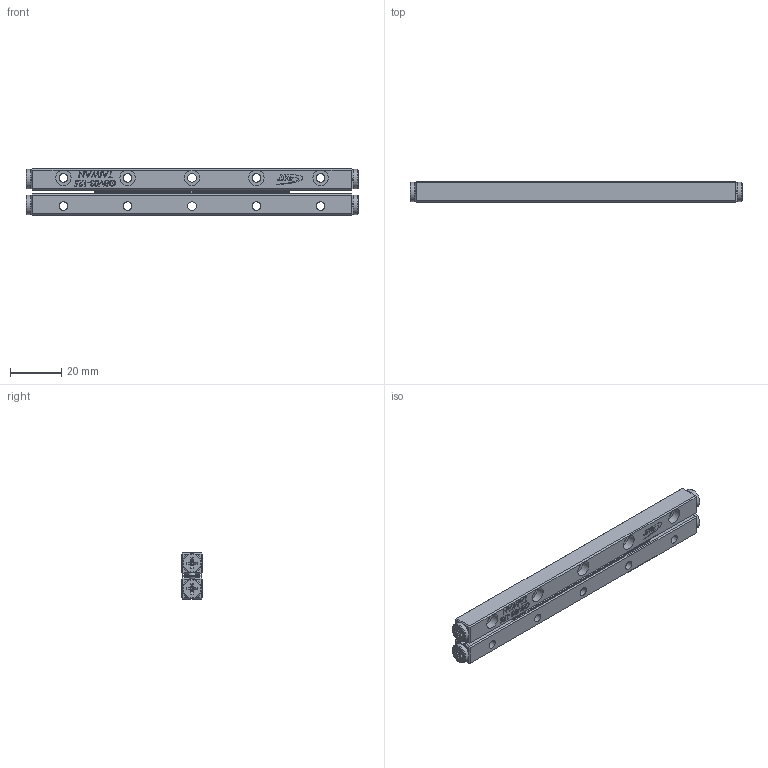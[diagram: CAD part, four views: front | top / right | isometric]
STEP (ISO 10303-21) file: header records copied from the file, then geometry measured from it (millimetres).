
FILE_DESCRIPTION (( 'STEP AP203' ), '1' );
FILE_NAME ('GBV03-125.STEP', '2023-11-08T08:46:25', ( '' ), ( '' ), 'SwSTEP 2.0', 'SolidWorks 2019', '' );
FILE_SCHEMA (( 'CONFIG_CONTROL_DESIGN' ));
Length unit declared in the file: millimetre
Products named in the file (3): GBV03-125-模糊化軌道; GBV03-125-模糊化保持器組; GBV03-125
Assembly tree (3 placements, depth 2):
  GBV03-125
    GBV03-125-模糊化軌道  x2
    GBV03-125-模糊化保持器組
Bounding box: 129 x 8 x 18 mm (x, y, z)
Volume: 15240.8 mm3; surface area: 11106.8 mm2
Topology: 3 solids, 3 shells, 738 faces, 1914 edges, 1232 vertices
Faces by surface type: plane 506, bspline 132, cone 36, sphere 30, cylinder 26, torus 8
Full cylindrical faces by diameter (mm): 3.35 x10, 6 x10, 7.5 x4
Entity records: 14781 total; most frequent: CARTESIAN_POINT 5915, ORIENTED_EDGE 1820, DIRECTION 1516, EDGE_CURVE 910, VECTOR 630, LINE 630, VERTEX_POINT 598, EDGE_LOOP 472
